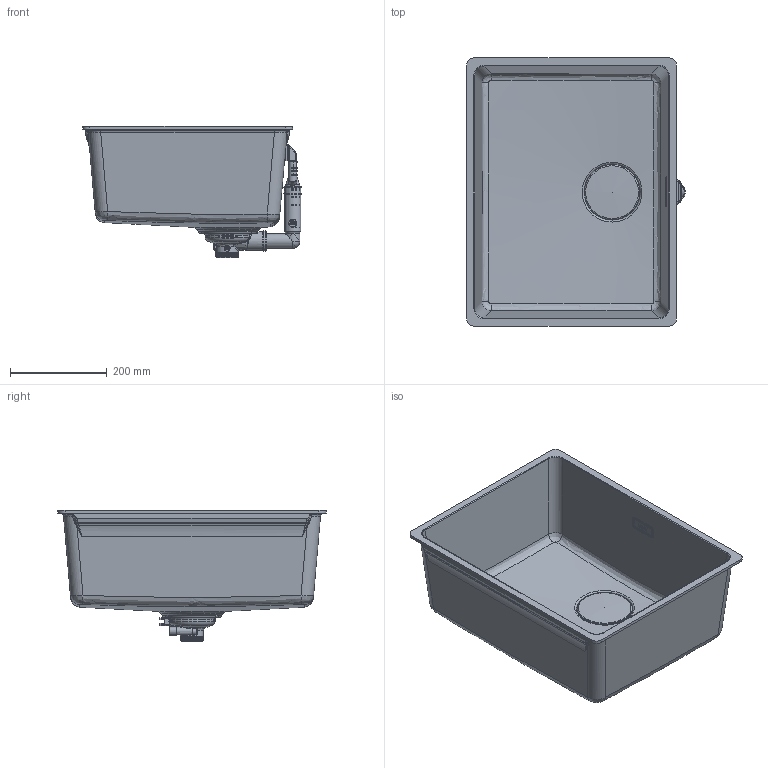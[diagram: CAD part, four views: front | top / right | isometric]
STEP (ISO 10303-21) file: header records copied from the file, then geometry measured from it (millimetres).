
FILE_DESCRIPTION(/* description */ ('UBG 610-56'),/* implementation_level */ '2;1');
FILE_NAME(/* name */ 'C:\Users\PS950\OneDrive - Franke Group\Maris Bowls MRG\Undermount\MRG 110-52\3D Data\MRG 110-52.stp',/* time_stamp */ '2021-09-29T16:02:42+02:00',/* author */ ('PS950'),/* organization */ (''),/* preprocessor_version */ 'ST-DEVELOPER v18.1',/* originating_system */ 'Autodesk Inventor 2021',/* authorisation */ '');
FILE_SCHEMA (('AUTOMOTIVE_DESIGN { 1 0 10303 214 3 1 1 }'));
Length unit declared in the file: millimetre
Products named in the file (23): 0056-219306; Standard; NEW MARIS_V01; 0056-218666; 0056-202897; 0056-214469; 0056-203246; 0056-213999; 0056-127368; 0056-215850; 0056-215855; 0056-185732; 0056-214454; 0056-214010; 0056-135514; 0056-137629; 0056-142823; 0056-165491; 0056-161093; 0056-200285; 0056-216002; 0056-216000; 0056-207145
Assembly tree (25 placements, depth 4):
  0056-219306
    Standard
      NEW MARIS_V01
    0056-218666
      0056-202897
      0056-214469
      0056-203246
        0056-213999
        0056-127368
        0056-215850
        0056-215855
        0056-185732
        0056-214454
        0056-214010
    0056-135514
    0056-137629
    0056-142823
    0056-165491
    0056-161093
    0056-200285
    0056-216002
      0056-216000
      0056-207145  x4
Bounding box: 451.36 x 553 x 271.19 mm (x, y, z)
Volume: 4064744.6 mm3; surface area: 1287462.4 mm2
Topology: 21 solids, 21 shells, 5086 faces, 13529 edges, 8670 vertices
Faces by surface type: plane 2667, bspline 1136, cylinder 657, torus 343, cone 220, sphere 63
Full cylindrical faces by diameter (mm): 3.242 x1, 4 x1, 4.5 x1, 4.7 x1, 4.85 x1, 5.2 x1, 5.25 x1, 5.85 x2, 6 x5, 6.01 x1, 6.2 x1, 8 x2, 8.25 x1, 10.5 x1, 11.003 x8, 12 x1, 12.5 x9, 12.6 x1, 13.743 x1, 14.3 x1, 16.941 x1, 22 x1, 26 x1, 27 x1, 28 x2, 30 x7, 33 x2, 33.75 x1, 34 x2, 36.5 x1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
Entity records: 182344 total; most frequent: CARTESIAN_POINT 66887, ORIENTED_EDGE 25858, DIRECTION 20439, EDGE_CURVE 12929, VERTEX_POINT 8358, LINE 7583, VECTOR 7583, AXIS2_PLACEMENT_3D 6428
